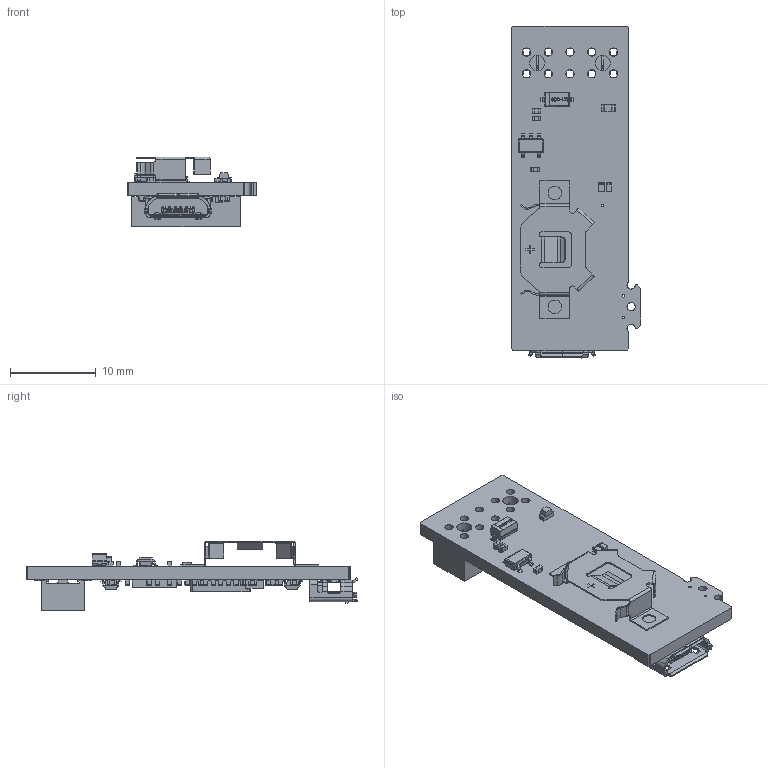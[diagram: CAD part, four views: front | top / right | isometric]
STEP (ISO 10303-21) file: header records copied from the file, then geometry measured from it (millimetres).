
FILE_DESCRIPTION(('Open CASCADE Model'),'2;1');
FILE_NAME('Open CASCADE Shape Model','2021-08-26T09:50:42',('Author'),( 'Open CASCADE'),'Open CASCADE STEP processor 6.8','Open CASCADE 6.8' ,'Unknown');
FILE_SCHEMA(('AUTOMOTIVE_DESIGN { 1 0 10303 214 1 1 1 1 }'));
Length unit declared in the file: millimetre
Products named in the file (76): PCB; Board; Open CASCADE STEP translator 6.8 1.1.1; Open CASCADE STEP translator 6.8 1.1.1.1; R4; User_Library-CAPC1005X06; C4; C7; C8; R1; R2; U2; User_Library-8MA3; C15; R3; U3; 6250617216; Extruded; 6130520992; C16; U4; 6130263712; D3; User_Library-SOT363-2; D5; D2; User_Library-SOD882; R12; R13; J1; Amphenol_Micro_USBB_Type_10118192C; C1; C2; C3; C5; C6; C9; C10; C11; C12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
Assembly tree (114 placements, depth 4):
  PCB
    Board
      Open CASCADE STEP translator 6.8 1.1.1
        Open CASCADE STEP translator 6.8 1.1.1.1
    R4
      User_Library-CAPC1005X06
    C4
      User_Library-CAPC1005X06
    C7
      User_Library-CAPC1005X06
    C8
      User_Library-CAPC1005X06
    R1
      User_Library-CAPC1005X06
    R2
      User_Library-CAPC1005X06
    U2
      User_Library-8MA3
    C15
      User_Library-CAPC1005X06
    R3
      User_Library-CAPC1005X06
    U3
      6250617216
        Extruded
      6130520992
        Extruded
    C16
      User_Library-CAPC1005X06
    U4
      6130263712
        Extruded
    D3
      User_Library-SOT363-2
    D5
      User_Library-SOT363-2
    D2
      User_Library-SOD882
    R12
      User_Library-CAPC1005X06
    R13
      User_Library-CAPC1005X06
    J1
      Amphenol_Micro_USBB_Type_10118192C
    C1
      User_Library-CAPC1005X06
    C2
      User_Library-CAPC1005X06
    C3
      User_Library-CAPC1005X06
    C5
      User_Library-CAPC1005X06
    C6
      User_Library-CAPC1005X06
    C9
      User_Library-CAPC1005X06
    C10
      User_Library-CAPC1005X06
    C11
      User_Library-CAPC1005X06
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Bounding box: 15.11 x 38.78 x 8.17 mm (x, y, z)
Volume: 1097.4 mm3; surface area: 2543 mm2
Topology: 64 solids, 692 shells, 3387 faces, 10349 edges, 7504 vertices
Faces by surface type: plane 1405, cylinder 968, bspline 946, sphere 44, torus 24
Full cylindrical faces by diameter (mm): 0.254 x1, 0.304 x4, 0.966 x11, 1.778 x2
Entity records: 85616 total; most frequent: CARTESIAN_POINT 27426, DIRECTION 9733, ORIENTED_EDGE 9184, EDGE_CURVE 6362, VERTEX_POINT 5318, LINE 4613, VECTOR 4613, AXIS2_PLACEMENT_3D 2560
